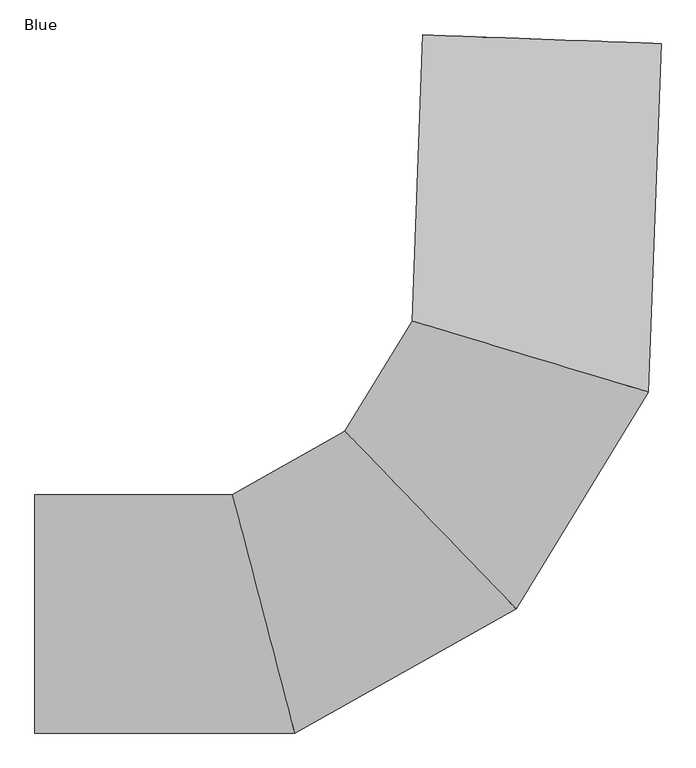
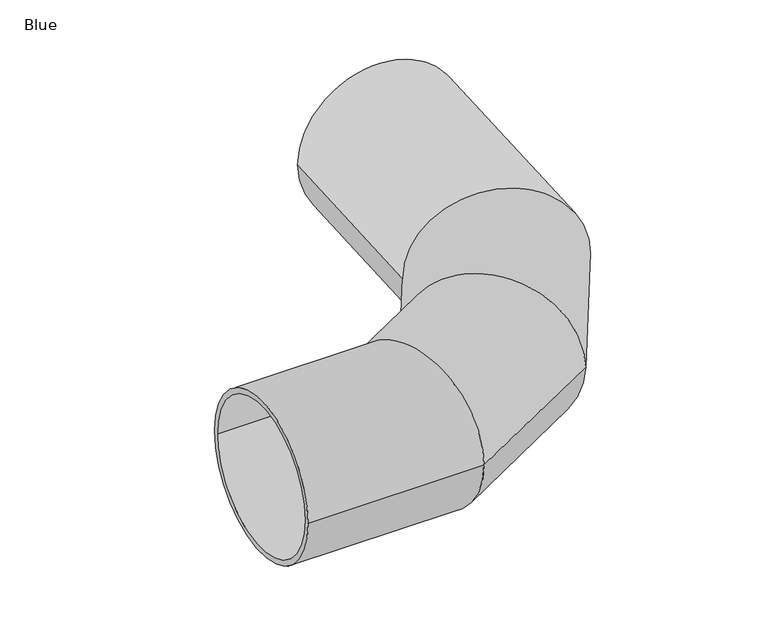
"""IFC4 building model written with IfcOpenShell, lengths in millimetres: pipe fitting geometry, AWADUKT PP SN10 SBend : Blue."""

from ifc_helpers import new_model, si_unit, frame, origin, place, context, project, spatial, polyline, circle_curve, ellipse_curve, source, transform, mapped, element, save
from ifc_brep_helpers import plane_surface, cylinder_surface, revolved_surface, advanced_brep


def blue_2595d2eb(model_context):
    return source(origin(), model_context, "Body", "AdvancedBrep", [
        advanced_brep(
        [(-1283.5, -315.0, 0.0), (-1283.5, 315.0, 0.0), (-1283.5, -293.4, 0.0), (-1283.5, 293.4, 0.0), (370.4319157, 1505.9373977, 0.0), (-259.1449724, 1529.0229342, 0.0), (348.8464224, 1506.7289018, 0.0), (-237.5594791, 1528.2314301, 0.0), (-603.2824535, -293.4, 0.0), (-756.6793533, 293.4, 0.0), (-597.6359418, -315.0, 0.0), (-762.325865, 315.0, 0.0), (-28.2426788, 29.2972715, 0.0), (-449.1850243, 465.9577696, 0.0), (-12.7478685, 13.223879, 0.0), (-464.6798346, 482.0311622, 0.0), (315.3094572, 592.1260211, 0.0), (-265.4754129, 766.9224269, 0.0), (336.6880414, 585.6917976, 0.0), (-286.8539971, 773.3566504, 0.0)],
        [
            (0, 1, circle_curve(frame((-1283.5, 0.0, 0.0), z_axis=(-1.0, 0.0, 0.0), x_axis=(0.0, 1.0, 0.0)), 315.0)),
            (1, 0, circle_curve(frame((-1283.5, 0.0, 0.0), z_axis=(-1.0, 0.0, 0.0), x_axis=(0.0, 1.0, 0.0)), 315.0)),
            (2, 3, circle_curve(frame((-1283.5, 0.0, 0.0), z_axis=(1.0, 0.0, 0.0), x_axis=(0.0, 1.0, 0.0)), 293.4)),
            (3, 2, circle_curve(frame((-1283.5, 0.0, 0.0), z_axis=(1.0, 0.0, 0.0), x_axis=(0.0, 1.0, 0.0)), 293.4)),
            (4, 5, circle_curve(frame((55.6434717, 1517.480166, 0.0), z_axis=(0.03664370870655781, 0.9993283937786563, 0.0), x_axis=(-0.9993283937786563, 0.03664370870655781, 0.0)), 315.0)),
            (5, 4, circle_curve(frame((55.6434717, 1517.480166, 0.0), z_axis=(0.03664370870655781, 0.9993283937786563, 0.0), x_axis=(-0.9993283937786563, 0.03664370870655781, 0.0)), 315.0)),
            (6, 7, circle_curve(frame((55.6434717, 1517.480166, 0.0), z_axis=(-0.03664370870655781, -0.9993283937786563, 0.0), x_axis=(-0.9993283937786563, 0.03664370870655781, 0.0)), 293.4)),
            (7, 6, circle_curve(frame((55.6434717, 1517.480166, 0.0), z_axis=(-0.03664370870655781, -0.9993283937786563, 0.0), x_axis=(-0.9993283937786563, 0.03664370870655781, 0.0)), 293.4)),
            (2, 8),
            (8, 9, ellipse_curve(frame((-679.9809034, 0.0, 0.0), z_axis=(0.9674888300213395, 0.2529137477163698, 0.0), x_axis=(0.2529137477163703, -0.9674888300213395, 0.0)), 303.2593151, 293.4)),
            (9, 3),
            (9, 8, ellipse_curve(frame((-679.9809034, 0.0, 0.0), z_axis=(0.9674888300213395, 0.2529137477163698, 0.0), x_axis=(0.2529137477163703, -0.9674888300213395, 0.0)), 303.2593151, 293.4)),
            (0, 10),
            (10, 11, ellipse_curve(frame((-679.9809034, 0.0, 0.0), z_axis=(-0.9674888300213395, -0.2529137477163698, 0.0), x_axis=(-0.2529137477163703, 0.9674888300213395, 0.0)), 325.5851543, 315.0)),
            (11, 1),
            (11, 10, ellipse_curve(frame((-679.9809034, 0.0, 0.0), z_axis=(-0.9674888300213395, -0.2529137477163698, 0.0), x_axis=(-0.2529137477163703, 0.9674888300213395, 0.0)), 325.5851543, 315.0)),
            (8, 12),
            (12, 13, ellipse_curve(frame((-238.7138516, 247.6275206, 0.0), z_axis=(0.7199457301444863, 0.6940303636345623, 0.0), x_axis=(0.6940303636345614, -0.7199457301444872, 0.0)), 303.2593151, 293.4)),
            (13, 9),
            (13, 12, ellipse_curve(frame((-238.7138516, 247.6275206, 0.0), z_axis=(0.7199457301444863, 0.6940303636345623, 0.0), x_axis=(0.6940303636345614, -0.7199457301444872, 0.0)), 303.2593151, 293.4)),
            (10, 14),
            (14, 15, ellipse_curve(frame((-238.7138516, 247.6275206, 0.0), z_axis=(-0.7199457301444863, -0.6940303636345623, 0.0), x_axis=(-0.6940303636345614, 0.7199457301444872, 0.0)), 325.5851543, 315.0)),
            (15, 11),
            (15, 14, ellipse_curve(frame((-238.7138516, 247.6275206, 0.0), z_axis=(-0.7199457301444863, -0.6940303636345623, 0.0), x_axis=(-0.6940303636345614, 0.7199457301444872, 0.0)), 325.5851543, 315.0)),
            (12, 16),
            (16, 17, ellipse_curve(frame((24.9170222, 679.524224, 0.0), z_axis=(0.288196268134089, 0.9575713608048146, 0.0), x_axis=(0.9575713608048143, -0.28819626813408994, 0.0)), 303.2593151, 293.4)),
            (17, 13),
            (17, 16, ellipse_curve(frame((24.9170222, 679.524224, 0.0), z_axis=(0.288196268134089, 0.9575713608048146, 0.0), x_axis=(0.9575713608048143, -0.28819626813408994, 0.0)), 303.2593151, 293.4)),
            (14, 18),
            (18, 19, ellipse_curve(frame((24.9170222, 679.524224, 0.0), z_axis=(-0.288196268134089, -0.9575713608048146, 0.0), x_axis=(-0.9575713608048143, 0.28819626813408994, 0.0)), 325.5851543, 315.0)),
            (19, 15),
            (19, 18, ellipse_curve(frame((24.9170222, 679.524224, 0.0), z_axis=(-0.288196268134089, -0.9575713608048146, 0.0), x_axis=(-0.9575713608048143, 0.28819626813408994, 0.0)), 325.5851543, 315.0)),
            (16, 6),
            (7, 17),
            (18, 4),
            (5, 19),
        ],
        [
            plane_surface(frame((-1283.5, 0.0, 0.0), z_axis=(-1.0, 0.0, 0.0), x_axis=(0.0, 0.0, 1.0))),
            plane_surface(frame((55.6434717, 1517.480166, 0.0), z_axis=(0.03664370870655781, 0.9993283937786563, 0.0), x_axis=(0.0, 0.0, 1.0))),
            revolved_surface(polyline([(-603.2824534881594, 293.4, 0.0), (-1283.5, 293.4, 0.0)]), (-1283.5, 0.0, 0.0), (1.0, 0.0, 0.0)),
            cylinder_surface(frame((-1283.5, 0.0, 0.0), z_axis=(-1.0, 0.0, 0.0), x_axis=(0.0, 1.0, 0.0)), 315.0),
            revolved_surface(polyline([(-315.4123014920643, 541.027520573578, 0.0), (-890.4520761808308, 218.3302490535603, 0.0)]), (-679.9809034, 0.0, 0.0), (0.8720692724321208, 0.4893824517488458, 0.0)),
            cylinder_surface(frame((-679.9809034, 0.0, 0.0), z_axis=(-0.8720692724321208, -0.4893824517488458, 0.0), x_axis=(-0.4893824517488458, 0.8720692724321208, 0.0)), 315.0),
            revolved_surface(polyline([(-185.55415064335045, 897.8544730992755, 0.0), (-529.1062866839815, 335.0257234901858, 0.0)]), (-238.7138516, 247.6275206, 0.0), (0.5210096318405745, 0.8535507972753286, 0.0)),
            cylinder_surface(frame((-238.7138516, 247.6275206, 0.0), z_axis=(-0.5210096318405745, -0.8535507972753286, 0.0), x_axis=(-0.8535507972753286, 0.5210096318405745, 0.0)), 315.0),
            revolved_surface(polyline([(-237.5594790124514, 1528.23143013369, 0.0), (-271.0964441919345, 613.6285493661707, 0.0)]), (24.9170222, 679.524224, 0.0), (0.03664370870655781, 0.9993283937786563, 0.0)),
            cylinder_surface(frame((24.9170222, 679.524224, 0.0), z_axis=(-0.03664370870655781, -0.9993283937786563, 0.0), x_axis=(-0.9993283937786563, 0.03664370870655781, 0.0)), 315.0),
        ],
        [
            (0, [[1, 2], [3, 4]]),
            (1, [[5, 6], [7, 8]]),
            (2, [[-3, 9, 10, 11]]),
            (2, [[-4, -11, 12, -9]]),
            (3, [[-1, 13, 14, 15]]),
            (3, [[-2, -15, 16, -13]]),
            (4, [[-10, 17, 18, 19]]),
            (4, [[-12, -19, 20, -17]]),
            (5, [[-14, 21, 22, 23]]),
            (5, [[-16, -23, 24, -21]]),
            (6, [[-18, 25, 26, 27]]),
            (6, [[-20, -27, 28, -25]]),
            (7, [[-22, 29, 30, 31]]),
            (7, [[-24, -31, 32, -29]]),
            (8, [[-26, 33, -8, 34]]),
            (8, [[-28, -34, -7, -33]]),
            (9, [[-30, 35, -6, 36]]),
            (9, [[-32, -36, -5, -35]]),
        ],
    ),
    ])


if __name__ == "__main__":
    model = new_model("IFC4")
    model_context = context("Model", 3, world=origin())
    ifc_project = project(units=[si_unit("LENGTHUNIT", "METRE", prefix="MILLI")], contexts=[model_context])
    site = spatial("IfcSite", under=ifc_project)
    building = spatial("IfcBuilding", under=site)
    placement = place(None, origin())
    blue_shape = blue_2595d2eb(model_context)
    element("IfcPipeFitting", 1, ObjectType="AWADUKT PP SN10 SBend : Blue", at=placement, inside=building, context=model_context, shape_type="MappedRepresentation", body=[
        mapped(blue_shape, transform((0.0, 0.0, 0.0), x_axis=(1.0, 0.0, 0.0), y_axis=(0.0, 1.0, 0.0), z_axis=(0.0, 0.0, 1.0))),
    ])
    save(model, "model.ifc")
